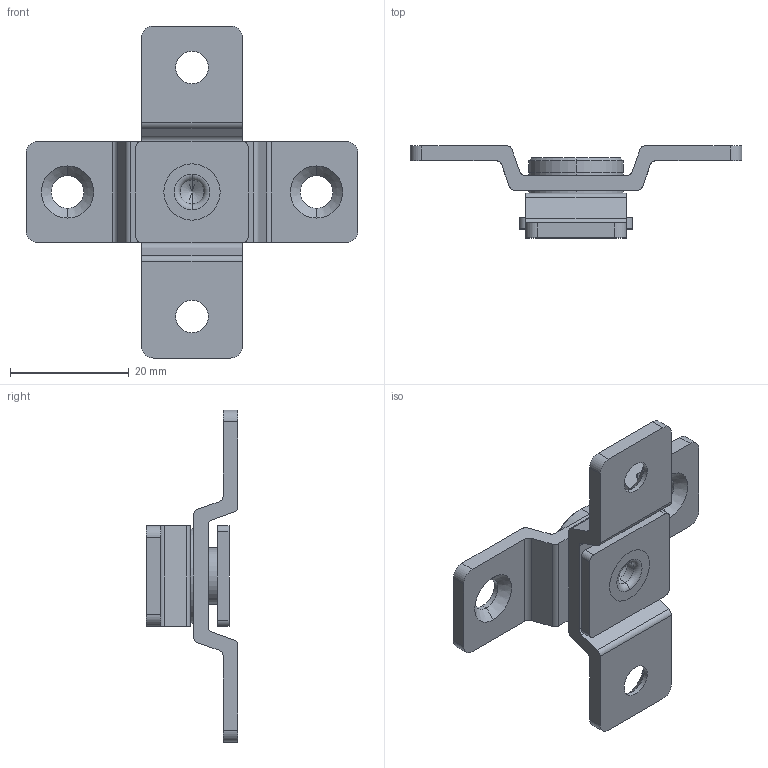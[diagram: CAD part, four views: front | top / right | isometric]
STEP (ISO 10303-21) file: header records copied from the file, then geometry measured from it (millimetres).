
FILE_DESCRIPTION (( 'STEP AP203' ), '1' );
FILE_NAME ('XG11-012-1.STEP', '2023-12-04T06:30:48', ( '' ), ( '' ), 'SwSTEP 2.0', 'SolidWorks 2020', '' );
FILE_SCHEMA (( 'CONFIG_CONTROL_DESIGN' ));
Length unit declared in the file: millimetre
Products named in the file (4): XG11-012-1; 錨璃1; 錨璃2; 錨璃3
Assembly tree (3 placements, depth 2):
  XG11-012-1
    錨璃1
    錨璃2
    錨璃3
Bounding box: 56 x 15.5 x 56 mm (x, y, z)
Volume: 6404.1 mm3; surface area: 6934.4 mm2
Topology: 6 solids, 6 shells, 111 faces, 280 edges, 181 vertices
Faces by surface type: cylinder 56, plane 41, cone 12, torus 2
Entity records: 3798 total; most frequent: DIRECTION 638, CARTESIAN_POINT 576, ORIENTED_EDGE 556, EDGE_CURVE 278, AXIS2_PLACEMENT_3D 243, VERTEX_POINT 181, LINE 152, VECTOR 152
